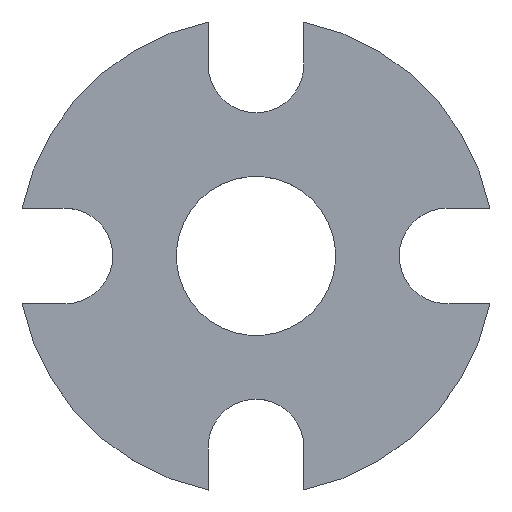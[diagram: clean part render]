
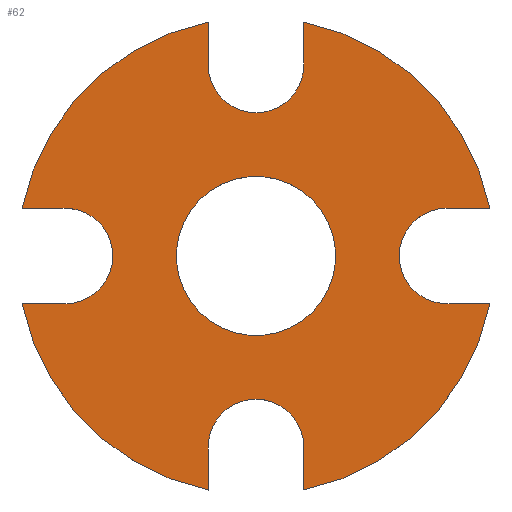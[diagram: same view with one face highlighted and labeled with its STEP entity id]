
A CAD part, top view. The second image highlights one B-rep face of the part: STEP entity #62.
In plain terms, the highlighted planar face has unit normal (0, 0, 1).
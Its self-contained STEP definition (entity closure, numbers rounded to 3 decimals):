
#62=ADVANCED_FACE('',(#99,#100),#101,.T.);
#99=FACE_BOUND('',#150,.T.);
#100=FACE_OUTER_BOUND('',#151,.T.);
#101=PLANE('',#152);
#150=EDGE_LOOP('',(#256,#257));
#151=EDGE_LOOP('',(#258,#259,#260,#261,#262,#263,#264,#265,#266,#267,#268,#269,#270,#271,#272,#273,#274,#275,#276,#277));
#152=AXIS2_PLACEMENT_3D('',#278,#279,#280);
#256=ORIENTED_EDGE('',*,*,#403,.T.);
#257=ORIENTED_EDGE('',*,*,#404,.T.);
#258=ORIENTED_EDGE('',*,*,#408,.T.);
#259=ORIENTED_EDGE('',*,*,#413,.T.);
#260=ORIENTED_EDGE('',*,*,#399,.T.);
#261=ORIENTED_EDGE('',*,*,#412,.T.);
#262=ORIENTED_EDGE('',*,*,#417,.F.);
#263=ORIENTED_EDGE('',*,*,#421,.T.);
#264=ORIENTED_EDGE('',*,*,#422,.T.);
#265=ORIENTED_EDGE('',*,*,#395,.T.);
#266=ORIENTED_EDGE('',*,*,#423,.T.);
#267=ORIENTED_EDGE('',*,*,#424,.F.);
#268=ORIENTED_EDGE('',*,*,#425,.T.);
#269=ORIENTED_EDGE('',*,*,#426,.T.);
#270=ORIENTED_EDGE('',*,*,#391,.T.);
#271=ORIENTED_EDGE('',*,*,#427,.T.);
#272=ORIENTED_EDGE('',*,*,#428,.F.);
#273=ORIENTED_EDGE('',*,*,#429,.T.);
#274=ORIENTED_EDGE('',*,*,#430,.T.);
#275=ORIENTED_EDGE('',*,*,#387,.T.);
#276=ORIENTED_EDGE('',*,*,#431,.T.);
#277=ORIENTED_EDGE('',*,*,#418,.F.);
#278=CARTESIAN_POINT('',(31.5,0.0,21.5));
#279=DIRECTION('',(0.0,0.0,1.0));
#280=DIRECTION('',(0.,-1.0,0.0));
#387=EDGE_CURVE('',#451,#455,#457,.T.);
#391=EDGE_CURVE('',#459,#463,#465,.T.);
#395=EDGE_CURVE('',#467,#471,#473,.T.);
#399=EDGE_CURVE('',#475,#479,#481,.T.);
#403=EDGE_CURVE('',#483,#487,#489,.T.);
#404=EDGE_CURVE('',#487,#483,#490,.T.);
#408=EDGE_CURVE('',#497,#495,#498,.T.);
#412=EDGE_CURVE('',#479,#502,#504,.T.);
#413=EDGE_CURVE('',#495,#475,#505,.T.);
#417=EDGE_CURVE('',#509,#502,#511,.T.);
#418=EDGE_CURVE('',#497,#512,#513,.T.);
#421=EDGE_CURVE('',#509,#517,#518,.T.);
#422=EDGE_CURVE('',#517,#467,#519,.T.);
#423=EDGE_CURVE('',#471,#520,#521,.T.);
#424=EDGE_CURVE('',#522,#520,#523,.T.);
#425=EDGE_CURVE('',#522,#524,#525,.T.);
#426=EDGE_CURVE('',#524,#459,#526,.T.);
#427=EDGE_CURVE('',#463,#527,#528,.T.);
#428=EDGE_CURVE('',#529,#527,#530,.T.);
#429=EDGE_CURVE('',#529,#531,#532,.T.);
#430=EDGE_CURVE('',#531,#451,#533,.T.);
#431=EDGE_CURVE('',#455,#512,#534,.T.);
#451=VERTEX_POINT('',#561);
#455=VERTEX_POINT('',#566);
#457=CIRCLE('',#569,3.001);
#459=VERTEX_POINT('',#571);
#463=VERTEX_POINT('',#576);
#465=CIRCLE('',#579,3.001);
#467=VERTEX_POINT('',#581);
#471=VERTEX_POINT('',#586);
#473=CIRCLE('',#589,3.001);
#475=VERTEX_POINT('',#591);
#479=VERTEX_POINT('',#596);
#481=CIRCLE('',#599,3.001);
#483=VERTEX_POINT('',#601);
#487=VERTEX_POINT('',#606);
#489=CIRCLE('',#609,5.0);
#490=CIRCLE('',#610,5.0);
#495=VERTEX_POINT('',#616);
#497=VERTEX_POINT('',#619);
#498=LINE('',#620,#621);
#502=VERTEX_POINT('',#627);
#504=LINE('',#630,#631);
#505=CIRCLE('',#632,3.001);
#509=VERTEX_POINT('',#636);
#511=CIRCLE('',#639,15.);
#512=VERTEX_POINT('',#640);
#513=CIRCLE('',#641,15.);
#517=VERTEX_POINT('',#646);
#518=LINE('',#647,#648);
#519=CIRCLE('',#649,3.001);
#520=VERTEX_POINT('',#650);
#521=LINE('',#651,#652);
#522=VERTEX_POINT('',#653);
#523=CIRCLE('',#654,15.);
#524=VERTEX_POINT('',#655);
#525=LINE('',#656,#657);
#526=CIRCLE('',#658,3.001);
#527=VERTEX_POINT('',#659);
#528=LINE('',#660,#661);
#529=VERTEX_POINT('',#662);
#530=CIRCLE('',#663,15.);
#531=VERTEX_POINT('',#664);
#532=LINE('',#665,#666);
#533=CIRCLE('',#667,3.001);
#534=LINE('',#668,#669);
#561=CARTESIAN_POINT('',(31.5,8.999,21.5));
#566=CARTESIAN_POINT('',(28.499,12.,21.5));
#569=AXIS2_PLACEMENT_3D('',#713,#714,#715);
#571=CARTESIAN_POINT('',(40.499,0.,21.5));
#576=CARTESIAN_POINT('',(43.5,3.001,21.5));
#579=AXIS2_PLACEMENT_3D('',#721,#722,#723);
#581=CARTESIAN_POINT('',(31.5,-8.999,21.5));
#586=CARTESIAN_POINT('',(34.501,-12.,21.5));
#589=AXIS2_PLACEMENT_3D('',#729,#730,#731);
#591=CARTESIAN_POINT('',(22.501,0.,21.5));
#596=CARTESIAN_POINT('',(19.5,-3.001,21.5));
#599=AXIS2_PLACEMENT_3D('',#737,#738,#739);
#601=CARTESIAN_POINT('',(35.036,-3.536,21.5));
#606=CARTESIAN_POINT('',(27.964,3.536,21.5));
#609=AXIS2_PLACEMENT_3D('',#745,#746,#747);
#610=AXIS2_PLACEMENT_3D('',#748,#749,#750);
#616=CARTESIAN_POINT('',(19.376,2.999,21.5));
#619=CARTESIAN_POINT('',(16.803,2.999,21.5));
#620=CARTESIAN_POINT('',(25.5,2.999,21.5));
#621=VECTOR('',#756,1.0);
#627=CARTESIAN_POINT('',(16.803,-3.001,21.5));
#630=CARTESIAN_POINT('',(23.,-3.001,21.5));
#631=VECTOR('',#760,1.0);
#632=AXIS2_PLACEMENT_3D('',#761,#762,#763);
#636=CARTESIAN_POINT('',(28.501,-14.697,21.5));
#639=AXIS2_PLACEMENT_3D('',#771,#772,#773);
#640=CARTESIAN_POINT('',(28.499,14.697,21.5));
#641=AXIS2_PLACEMENT_3D('',#774,#775,#776);
#646=CARTESIAN_POINT('',(28.501,-12.124,21.5));
#647=CARTESIAN_POINT('',(28.501,-6.,21.5));
#648=VECTOR('',#781,1.0);
#649=AXIS2_PLACEMENT_3D('',#782,#783,#784);
#650=CARTESIAN_POINT('',(34.501,-14.697,21.5));
#651=CARTESIAN_POINT('',(34.501,-8.5,21.5));
#652=VECTOR('',#785,1.0);
#653=CARTESIAN_POINT('',(46.197,-2.999,21.5));
#654=AXIS2_PLACEMENT_3D('',#786,#787,#788);
#655=CARTESIAN_POINT('',(43.624,-2.999,21.5));
#656=CARTESIAN_POINT('',(37.5,-2.999,21.5));
#657=VECTOR('',#789,1.0);
#658=AXIS2_PLACEMENT_3D('',#790,#791,#792);
#659=CARTESIAN_POINT('',(46.197,3.001,21.5));
#660=CARTESIAN_POINT('',(40.,3.001,21.5));
#661=VECTOR('',#793,1.0);
#662=CARTESIAN_POINT('',(34.499,14.697,21.5));
#663=AXIS2_PLACEMENT_3D('',#794,#795,#796);
#664=CARTESIAN_POINT('',(34.499,12.124,21.5));
#665=CARTESIAN_POINT('',(34.499,6.,21.5));
#666=VECTOR('',#797,1.0);
#667=AXIS2_PLACEMENT_3D('',#798,#799,#800);
#668=CARTESIAN_POINT('',(28.499,8.5,21.5));
#669=VECTOR('',#801,1.0);
#713=CARTESIAN_POINT('',(31.5,12.,21.5));
#714=DIRECTION('',(0.0,-0.0,-1.0));
#715=DIRECTION('',(0.,-1.0,0.0));
#721=CARTESIAN_POINT('',(43.5,0.,21.5));
#722=DIRECTION('',(0.0,0.0,-1.0));
#723=DIRECTION('',(-1.0,0.,0.0));
#729=CARTESIAN_POINT('',(31.5,-12.,21.5));
#730=DIRECTION('',(0.0,0.0,-1.0));
#731=DIRECTION('',(0.,1.0,0.0));
#737=CARTESIAN_POINT('',(19.5,0.,21.5));
#738=DIRECTION('',(0.0,0.0,-1.0));
#739=DIRECTION('',(1.0,0.0,0.0));
#745=CARTESIAN_POINT('',(31.5,0.0,21.5));
#746=DIRECTION('',(0.0,-0.0,-1.0));
#747=DIRECTION('',(0.707,-0.707,0.0));
#748=CARTESIAN_POINT('',(31.5,0.0,21.5));
#749=DIRECTION('',(0.0,-0.0,-1.0));
#750=DIRECTION('',(0.707,-0.707,0.0));
#756=DIRECTION('',(1.0,0.0,0.0));
#760=DIRECTION('',(-1.0,0.0,0.0));
#761=CARTESIAN_POINT('',(19.5,0.,21.5));
#762=DIRECTION('',(0.0,0.0,-1.0));
#763=DIRECTION('',(1.0,0.0,0.0));
#771=CARTESIAN_POINT('',(31.5,0.0,21.5));
#772=DIRECTION('',(0.0,-0.0,-1.0));
#773=DIRECTION('',(0.,-1.0,0.0));
#774=CARTESIAN_POINT('',(31.5,0.0,21.5));
#775=DIRECTION('',(0.0,-0.0,-1.0));
#776=DIRECTION('',(0.,-1.0,0.0));
#781=DIRECTION('',(0.,1.0,0.0));
#782=CARTESIAN_POINT('',(31.5,-12.,21.5));
#783=DIRECTION('',(0.0,0.0,-1.0));
#784=DIRECTION('',(0.,1.0,0.0));
#785=DIRECTION('',(0.,-1.0,0.0));
#786=CARTESIAN_POINT('',(31.5,0.0,21.5));
#787=DIRECTION('',(0.0,-0.0,-1.0));
#788=DIRECTION('',(0.,-1.0,0.0));
#789=DIRECTION('',(-1.0,0.,0.0));
#790=CARTESIAN_POINT('',(43.5,0.,21.5));
#791=DIRECTION('',(0.0,0.0,-1.0));
#792=DIRECTION('',(-1.0,0.,0.0));
#793=DIRECTION('',(1.0,0.,0.0));
#794=CARTESIAN_POINT('',(31.5,0.0,21.5));
#795=DIRECTION('',(0.0,-0.0,-1.0));
#796=DIRECTION('',(0.,-1.0,0.0));
#797=DIRECTION('',(0.,-1.0,0.0));
#798=CARTESIAN_POINT('',(31.5,12.,21.5));
#799=DIRECTION('',(0.0,-0.0,-1.0));
#800=DIRECTION('',(0.,-1.0,0.0));
#801=DIRECTION('',(0.,1.0,0.0));
